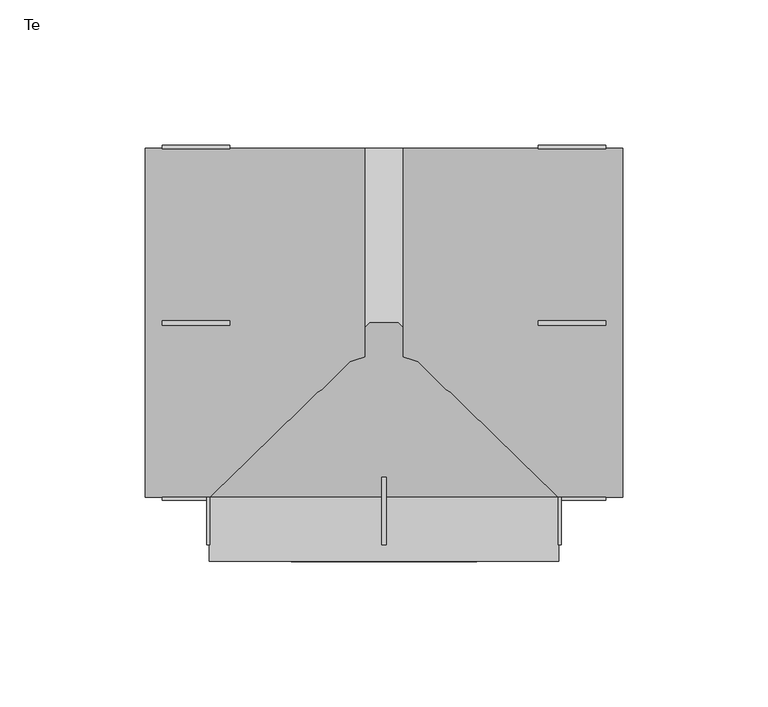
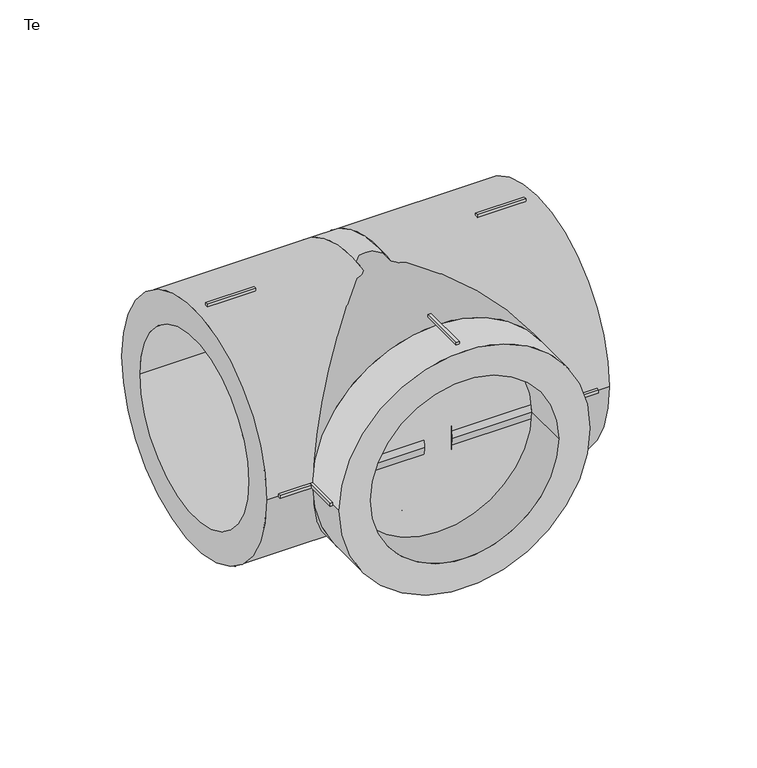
"""IFC4 building model written with IfcOpenShell, lengths in millimetres: pipe fitting geometry, EGB_VASEN_ PPR_Te WXR300_Te reducida WXR310 : Te."""

from ifc_helpers import new_model, si_unit, point, frame, origin, origin_2d, place, context, project, spatial, polyline, circle_curve, trimmed, segment, composite_curve, outline, extrude, source, transform, mapped, element, save


def te_180cf20b(model_context):
    return source(origin(), model_context, "Body", "SweptSolid", [
        extrude(outline(polyline([(-0.75, -53.0), (0.75, -53.0), (0.75, -76.2), (-0.75, -76.2), (-0.75, -53.0)])), frame((0.0, 0.0, 59.0), z_axis=(0.0, 0.0, 1.0), x_axis=(1.0, 0.0, 0.0)), (0.0, 0.0, 1.0), 2.0),
        extrude(outline(polyline([(-0.75, -53.0), (0.75, -53.0), (0.75, -76.2), (-0.75, -76.2), (-0.75, -53.0)])), frame((0.0, 0.0, -61.0), z_axis=(0.0, 0.0, 1.0), x_axis=(1.0, 0.0, 0.0)), (0.0, 0.0, 1.0), 2.0),
        extrude(outline(polyline([(59.0, -53.0), (61.0, -53.0), (61.0, -76.2), (59.0, -76.2), (59.0, -53.0)])), frame((0.0, 0.0, -0.75), z_axis=(0.0, 0.0, 1.0), x_axis=(1.0, 0.0, 0.0)), (0.0, 0.0, 1.0), 1.5),
        extrude(outline(polyline([(-61.0, -53.0), (-59.0, -53.0), (-59.0, -76.2), (-61.0, -76.2), (-61.0, -53.0)])), frame((0.0, 0.0, -0.75), z_axis=(0.0, 0.0, 1.0), x_axis=(1.0, 0.0, 0.0)), (0.0, 0.0, 1.0), 1.5),
        extrude(outline(polyline([(53.0, -0.75), (53.0, 0.75), (76.2, 0.75), (76.2, -0.75), (53.0, -0.75)])), frame((0.0, 0.0, 59.0), z_axis=(0.0, 0.0, 1.0), x_axis=(1.0, 0.0, 0.0)), (0.0, 0.0, 1.0), 2.0),
        extrude(outline(polyline([(53.0, -0.75), (53.0, 0.75), (76.2, 0.75), (76.2, -0.75), (53.0, -0.75)])), frame((0.0, 0.0, -61.0), z_axis=(0.0, 0.0, 1.0), x_axis=(1.0, 0.0, 0.0)), (0.0, 0.0, 1.0), 2.0),
        extrude(outline(polyline([(53.0, 59.0), (53.0, 61.0), (76.2, 61.0), (76.2, 59.0), (53.0, 59.0)])), frame((0.0, 0.0, -0.75), z_axis=(0.0, 0.0, 1.0), x_axis=(1.0, 0.0, 0.0)), (0.0, 0.0, 1.0), 1.5),
        extrude(outline(polyline([(53.0, -61.0), (53.0, -59.0), (76.2, -59.0), (76.2, -61.0), (53.0, -61.0)])), frame((0.0, 0.0, -0.75), z_axis=(0.0, 0.0, 1.0), x_axis=(1.0, 0.0, 0.0)), (0.0, 0.0, 1.0), 1.5),
        extrude(outline(polyline([(-53.0, 0.75), (-53.0, -0.75), (-76.2, -0.75), (-76.2, 0.75), (-53.0, 0.75)])), frame((0.0, 0.0, 59.0), z_axis=(0.0, 0.0, 1.0), x_axis=(1.0, 0.0, 0.0)), (0.0, 0.0, 1.0), 2.0),
        extrude(outline(polyline([(-53.0, 0.75), (-53.0, -0.75), (-76.2, -0.75), (-76.2, 0.75), (-53.0, 0.75)])), frame((0.0, 0.0, -61.0), z_axis=(0.0, 0.0, 1.0), x_axis=(1.0, 0.0, 0.0)), (0.0, 0.0, 1.0), 2.0),
        extrude(outline(polyline([(-53.0, 61.0), (-53.0, 59.0), (-76.2, 59.0), (-76.2, 61.0), (-53.0, 61.0)])), frame((0.0, 0.0, -0.75), z_axis=(0.0, 0.0, 1.0), x_axis=(1.0, 0.0, 0.0)), (0.0, 0.0, 1.0), 1.5),
        extrude(outline(polyline([(-53.0, -59.0), (-53.0, -61.0), (-76.2, -61.0), (-76.2, -59.0), (-53.0, -59.0)])), frame((0.0, 0.0, -0.75), z_axis=(0.0, 0.0, 1.0), x_axis=(1.0, 0.0, 0.0)), (0.0, 0.0, 1.0), 1.5),
        extrude(outline(composite_curve([segment(trimmed(circle_curve(origin_2d(), 60.0), [point((0.0, 60.0))], [point((0.0, -60.0))], False, "CARTESIAN"), True, "CONTINUOUS"), segment(trimmed(circle_curve(origin_2d(), 60.0), [point((0.0, -60.0))], [point((0.0, 60.0))], False, "CARTESIAN"), True, "CONTINUOUS")], self_intersect=False), holes=[composite_curve([segment(trimmed(circle_curve(origin_2d(), 45.0), [point((0.0, 45.0))], [point((0.0, -45.0))], True, "CARTESIAN"), True, "CONTINUOUS"), segment(trimmed(circle_curve(origin_2d(), 45.0), [point((0.0, -45.0))], [point((0.0, 45.0))], True, "CARTESIAN"), True, "CONTINUOUS")], self_intersect=False)]), frame((0.0, -82.0, 0.0), z_axis=(0.0, 1.0, 0.0), x_axis=(0.0, 0.0, 1.0)), (0.0, 0.0, 1.0), 22.0),
        extrude(outline(composite_curve([segment(trimmed(circle_curve(origin_2d(), 60.0), [point((-60.0, 0.0))], [point((60.0, 0.0))], False, "CARTESIAN"), True, "CONTINUOUS"), segment(trimmed(circle_curve(origin_2d(), 60.0), [point((60.0, 0.0))], [point((-60.0, 0.0))], False, "CARTESIAN"), True, "CONTINUOUS")], self_intersect=False), holes=[composite_curve([segment(trimmed(circle_curve(origin_2d(), 45.0), [point((-45.0, 0.0))], [point((45.0, 0.0))], True, "CARTESIAN"), True, "CONTINUOUS"), segment(trimmed(circle_curve(origin_2d(), 45.0), [point((45.0, 0.0))], [point((-45.0, 0.0))], True, "CARTESIAN"), True, "CONTINUOUS")], self_intersect=False)]), frame((6.56, 0.0, 0.0), z_axis=(1.0, 0.0, 0.0), x_axis=(0.0, 1.0, 0.0)), (0.0, 0.0, 1.0), 75.44),
        extrude(outline(composite_curve([segment(trimmed(circle_curve(origin_2d(), 60.0), [point((-60.0, 0.0))], [point((60.0, 0.0))], False, "CARTESIAN"), True, "CONTINUOUS"), segment(trimmed(circle_curve(origin_2d(), 60.0), [point((60.0, 0.0))], [point((-60.0, 0.0))], False, "CARTESIAN"), True, "CONTINUOUS")], self_intersect=False), holes=[composite_curve([segment(trimmed(circle_curve(origin_2d(), 45.0), [point((-45.0, 0.0))], [point((45.0, 0.0))], True, "CARTESIAN"), True, "CONTINUOUS"), segment(trimmed(circle_curve(origin_2d(), 45.0), [point((45.0, 0.0))], [point((-45.0, 0.0))], True, "CARTESIAN"), True, "CONTINUOUS")], self_intersect=False)]), frame((-82.0, 0.0, 0.0), z_axis=(1.0, 0.0, 0.0), x_axis=(0.0, 1.0, 0.0)), (0.0, 0.0, 1.0), 75.44),
        extrude(outline(composite_curve([segment(trimmed(circle_curve(origin_2d(), 60.0), [point((0.0, 60.0))], [point((0.0, -60.0))], False, "CARTESIAN"), True, "CONTINUOUS"), segment(trimmed(circle_curve(origin_2d(), 60.0), [point((0.0, -60.0))], [point((0.0, 60.0))], False, "CARTESIAN"), True, "CONTINUOUS")], self_intersect=False)), frame((0.0, -60.0, 0.0), z_axis=(0.0, 1.0, 0.0), x_axis=(0.0, 0.0, 1.0)), (0.0, 0.0, 1.0), 60.0),
        extrude(outline(composite_curve([segment(trimmed(circle_curve(origin_2d(), 60.0), [point((-60.0, 0.0))], [point((60.0, 0.0))], False, "CARTESIAN"), True, "CONTINUOUS"), segment(trimmed(circle_curve(origin_2d(), 60.0), [point((60.0, 0.0))], [point((-60.0, 0.0))], False, "CARTESIAN"), True, "CONTINUOUS")], self_intersect=False)), frame((-6.56, 0.0, 0.0), z_axis=(1.0, 0.0, 0.0), x_axis=(0.0, 1.0, 0.0)), (0.0, 0.0, 1.0), 13.12),
    ])


if __name__ == "__main__":
    model = new_model("IFC4")
    model_context = context("Model", 3, world=origin())
    ifc_project = project(units=[si_unit("LENGTHUNIT", "METRE", prefix="MILLI")], contexts=[model_context])
    site = spatial("IfcSite", under=ifc_project)
    building = spatial("IfcBuilding", under=site)
    placement = place(None, origin())
    te_shape = te_180cf20b(model_context)
    element("IfcPipeFitting", 1, ObjectType="EGB_VASEN_ PPR_Te WXR300_Te reducida WXR310 : Te", at=placement, inside=building, context=model_context, shape_type="MappedRepresentation", body=[
        mapped(te_shape, transform((0.0, 0.0, 0.0), x_axis=(1.0, 0.0, 0.0), y_axis=(0.0, 1.0, 0.0), z_axis=(0.0, 0.0, 1.0))),
    ])
    save(model, "model.ifc")
